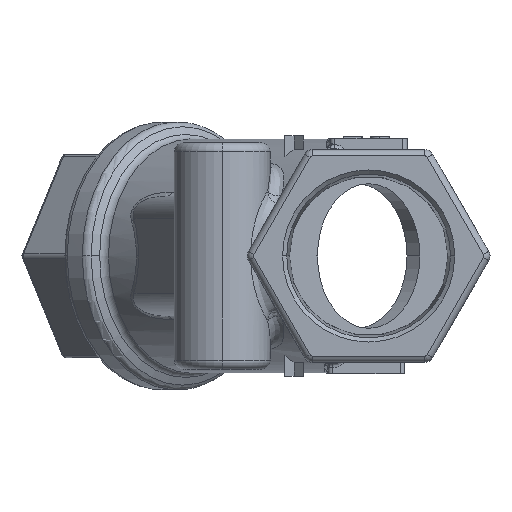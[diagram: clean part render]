
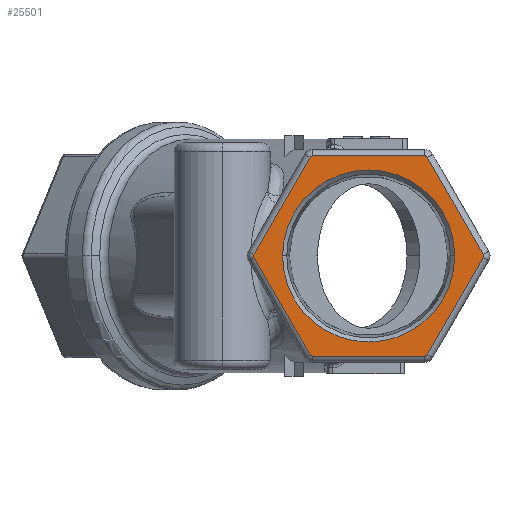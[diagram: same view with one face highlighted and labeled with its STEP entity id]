
A CAD part, left-side view. The second image highlights one B-rep face of the part: STEP entity #25501.
In plain terms, the highlighted planar face has unit normal (-1, 0, 0).
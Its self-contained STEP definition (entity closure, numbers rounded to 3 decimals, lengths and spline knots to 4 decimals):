
#1878 = CARTESIAN_POINT ( 'NONE',  ( -2.515, -0.6207, -1.1062 ) ) ;
#1887 = CARTESIAN_POINT ( 'NONE',  ( -2.515, 0.6207, -1.1062 ) ) ;
#1903 = CARTESIAN_POINT ( 'NONE',  ( -2.515, 0.6477, 1.0906 ) ) ;
#1948 = CARTESIAN_POINT ( 'NONE',  ( -2.515, -0.6477, -1.0906 ) ) ;
#2012 = CARTESIAN_POINT ( 'NONE',  ( -2.515, -0.6477, 1.0906 ) ) ;
#2087 = CARTESIAN_POINT ( 'NONE',  ( -2.515, -0.6207, 1.1062 ) ) ;
#2088 = CARTESIAN_POINT ( 'NONE',  ( -2.515, 1.2683, 0.0156 ) ) ;
#2481 = CARTESIAN_POINT ( 'NONE',  ( -2.515, -0.9511, 0. ) ) ;
#2485 = CARTESIAN_POINT ( 'NONE',  ( -2.515, 1.2683, -0.0156 ) ) ;
#2542 = CARTESIAN_POINT ( 'NONE',  ( -2.515, -1.2683, 0.0156 ) ) ;
#2549 = CARTESIAN_POINT ( 'NONE',  ( -2.515, 0.9511, 0. ) ) ;
#2559 = CARTESIAN_POINT ( 'NONE',  ( -2.515, 0.6207, 1.1062 ) ) ;
#2568 = CARTESIAN_POINT ( 'NONE',  ( -2.515, -1.2683, -0.0156 ) ) ;
#2606 = CARTESIAN_POINT ( 'NONE',  ( -2.515, 0.6477, -1.0906 ) ) ;
#5763 = CARTESIAN_POINT ( 'NONE',  ( -2.515, 0., 0. ) ) ;
#5764 = DIRECTION ( 'NONE',  ( -1., 0., 0. ) ) ;
#5765 = DIRECTION ( 'NONE',  ( 0., -1., 0. ) ) ;
#8513 = AXIS2_PLACEMENT_3D ( 'NONE', #28336, #28341, #28342 ) ;
#9471 = FACE_OUTER_BOUND ( 'NONE', #22176, .T. ) ;
#9479 = FACE_BOUND ( 'NONE', #22150, .T. ) ;
#13633 = EDGE_CURVE ( 'NONE', #17139, #17064, #43210, .T. ) ;
#13637 = EDGE_CURVE ( 'NONE', #17249, #17139, #43213, .T. ) ;
#13639 = EDGE_CURVE ( 'NONE', #17064, #17231, #43215, .T. ) ;
#13643 = EDGE_CURVE ( 'NONE', #16955, #17249, #43223, .T. ) ;
#13645 = EDGE_CURVE ( 'NONE', #17231, #17258, #43227, .T. ) ;
#13649 = EDGE_CURVE ( 'NONE', #17140, #16955, #43229, .T. ) ;
#13651 = EDGE_CURVE ( 'NONE', #17258, #17000, #43231, .T. ) ;
#13655 = EDGE_CURVE ( 'NONE', #17159, #17140, #43239, .T. ) ;
#13657 = EDGE_CURVE ( 'NONE', #17000, #16927, #43243, .T. ) ;
#13661 = EDGE_CURVE ( 'NONE', #17298, #17159, #43246, .T. ) ;
#13663 = EDGE_CURVE ( 'NONE', #16927, #16939, #43247, .T. ) ;
#13666 = EDGE_CURVE ( 'NONE', #16939, #17298, #43250, .T. ) ;
#13669 = EDGE_CURVE ( 'NONE', #17155, #17239, #43258, .T. ) ;
#16927 = VERTEX_POINT ( 'NONE', #1878 ) ;
#16939 = VERTEX_POINT ( 'NONE', #1887 ) ;
#16955 = VERTEX_POINT ( 'NONE', #1903 ) ;
#17000 = VERTEX_POINT ( 'NONE', #1948 ) ;
#17064 = VERTEX_POINT ( 'NONE', #2012 ) ;
#17139 = VERTEX_POINT ( 'NONE', #2087 ) ;
#17140 = VERTEX_POINT ( 'NONE', #2088 ) ;
#17155 = VERTEX_POINT ( 'NONE', #2481 ) ;
#17159 = VERTEX_POINT ( 'NONE', #2485 ) ;
#17231 = VERTEX_POINT ( 'NONE', #2542 ) ;
#17239 = VERTEX_POINT ( 'NONE', #2549 ) ;
#17249 = VERTEX_POINT ( 'NONE', #2559 ) ;
#17258 = VERTEX_POINT ( 'NONE', #2568 ) ;
#17298 = VERTEX_POINT ( 'NONE', #2606 ) ;
#21251 = EDGE_CURVE ( 'NONE', #17239, #17155, #46001, .T. ) ;
#22150 = EDGE_LOOP ( 'NONE', ( #41608, #41662 ) ) ;
#22176 = EDGE_LOOP ( 'NONE', ( #41567, #41509, #41556, #41593, #41557, #41568, #41641, #41645, #41629, #41490, #41582, #41590 ) ) ;
#25501 = ADVANCED_FACE ( 'NONE', ( #9471, #9479 ), #28339, .T. ) ;
#28336 = CARTESIAN_POINT ( 'NONE',  ( -2.515, 0., 0. ) ) ;
#28339 = PLANE ( 'NONE',  #8513 ) ;
#28341 = DIRECTION ( 'NONE',  ( -1., 0., 0. ) ) ;
#28342 = DIRECTION ( 'NONE',  ( 0., -1., 0. ) ) ;
#35179 = AXIS2_PLACEMENT_3D ( 'NONE', #43617, #43618, #43619 ) ;
#35185 = AXIS2_PLACEMENT_3D ( 'NONE', #43643, #43644, #43645 ) ;
#35187 = AXIS2_PLACEMENT_3D ( 'NONE', #43649, #43650, #43651 ) ;
#35193 = AXIS2_PLACEMENT_3D ( 'NONE', #43675, #43676, #43677 ) ;
#35195 = AXIS2_PLACEMENT_3D ( 'NONE', #43683, #43684, #43685 ) ;
#35200 = AXIS2_PLACEMENT_3D ( 'NONE', #43706, #43707, #43708 ) ;
#35203 = AXIS2_PLACEMENT_3D ( 'NONE', #43715, #43716, #43717 ) ;
#35452 = AXIS2_PLACEMENT_3D ( 'NONE', #5763, #5764, #5765 ) ;
#41490 = ORIENTED_EDGE ( 'NONE', *, *, #13645, .F. ) ;
#41509 = ORIENTED_EDGE ( 'NONE', *, *, #13643, .F. ) ;
#41556 = ORIENTED_EDGE ( 'NONE', *, *, #13649, .F. ) ;
#41557 = ORIENTED_EDGE ( 'NONE', *, *, #13661, .F. ) ;
#41567 = ORIENTED_EDGE ( 'NONE', *, *, #13637, .F. ) ;
#41568 = ORIENTED_EDGE ( 'NONE', *, *, #13666, .F. ) ;
#41582 = ORIENTED_EDGE ( 'NONE', *, *, #13639, .F. ) ;
#41590 = ORIENTED_EDGE ( 'NONE', *, *, #13633, .F. ) ;
#41593 = ORIENTED_EDGE ( 'NONE', *, *, #13655, .F. ) ;
#41608 = ORIENTED_EDGE ( 'NONE', *, *, #13669, .F. ) ;
#41629 = ORIENTED_EDGE ( 'NONE', *, *, #13651, .F. ) ;
#41641 = ORIENTED_EDGE ( 'NONE', *, *, #13663, .F. ) ;
#41645 = ORIENTED_EDGE ( 'NONE', *, *, #13657, .F. ) ;
#41662 = ORIENTED_EDGE ( 'NONE', *, *, #21251, .F. ) ;
#43210 = CIRCLE ( 'NONE', #35179, 0.0312 ) ;
#43213 = LINE ( 'NONE', #43628, #43217 ) ;
#43215 = LINE ( 'NONE', #43627, #43221 ) ;
#43217 = VECTOR ( 'NONE', #43623, 39.3701 ) ;
#43221 = VECTOR ( 'NONE', #43635, 39.3701 ) ;
#43223 = CIRCLE ( 'NONE', #35185, 0.0312 ) ;
#43227 = CIRCLE ( 'NONE', #35187, 0.0312 ) ;
#43229 = LINE ( 'NONE', #43660, #43233 ) ;
#43231 = LINE ( 'NONE', #43659, #43237 ) ;
#43233 = VECTOR ( 'NONE', #43655, 39.3701 ) ;
#43237 = VECTOR ( 'NONE', #43667, 39.3701 ) ;
#43239 = CIRCLE ( 'NONE', #35193, 0.0312 ) ;
#43243 = CIRCLE ( 'NONE', #35195, 0.0312 ) ;
#43246 = LINE ( 'NONE', #43693, #43249 ) ;
#43247 = LINE ( 'NONE', #43692, #43253 ) ;
#43249 = VECTOR ( 'NONE', #43682, 39.3701 ) ;
#43250 = CIRCLE ( 'NONE', #35200, 0.0312 ) ;
#43253 = VECTOR ( 'NONE', #43700, 39.3701 ) ;
#43258 = CIRCLE ( 'NONE', #35203, 0.9511 ) ;
#43617 = CARTESIAN_POINT ( 'NONE',  ( -2.515, -0.6207, 1.075 ) ) ;
#43618 = DIRECTION ( 'NONE',  ( 1., 0., 0. ) ) ;
#43619 = DIRECTION ( 'NONE',  ( 0., -1., 0. ) ) ;
#43623 = DIRECTION ( 'NONE',  ( 0., -1., 0. ) ) ;
#43627 = CARTESIAN_POINT ( 'NONE',  ( -2.515, -0.958, 0.5531 ) ) ;
#43628 = CARTESIAN_POINT ( 'NONE',  ( -2.515, 0., 1.1062 ) ) ;
#43635 = DIRECTION ( 'NONE',  ( 0., -0.5, -0.866 ) ) ;
#43643 = CARTESIAN_POINT ( 'NONE',  ( -2.515, 0.6207, 1.075 ) ) ;
#43644 = DIRECTION ( 'NONE',  ( 1., 0., 0. ) ) ;
#43645 = DIRECTION ( 'NONE',  ( 0., -1., 0. ) ) ;
#43649 = CARTESIAN_POINT ( 'NONE',  ( -2.515, -1.2413, 0. ) ) ;
#43650 = DIRECTION ( 'NONE',  ( 1., 0., 0. ) ) ;
#43651 = DIRECTION ( 'NONE',  ( 0., -1., 0. ) ) ;
#43655 = DIRECTION ( 'NONE',  ( 0., -0.5, 0.866 ) ) ;
#43659 = CARTESIAN_POINT ( 'NONE',  ( -2.515, -0.958, -0.5531 ) ) ;
#43660 = CARTESIAN_POINT ( 'NONE',  ( -2.515, 0.958, 0.5531 ) ) ;
#43667 = DIRECTION ( 'NONE',  ( 0., 0.5, -0.866 ) ) ;
#43675 = CARTESIAN_POINT ( 'NONE',  ( -2.515, 1.2413, 0. ) ) ;
#43676 = DIRECTION ( 'NONE',  ( 1., 0., 0. ) ) ;
#43677 = DIRECTION ( 'NONE',  ( 0., -1., 0. ) ) ;
#43682 = DIRECTION ( 'NONE',  ( 0., 0.5, 0.866 ) ) ;
#43683 = CARTESIAN_POINT ( 'NONE',  ( -2.515, -0.6207, -1.075 ) ) ;
#43684 = DIRECTION ( 'NONE',  ( 1., 0., 0. ) ) ;
#43685 = DIRECTION ( 'NONE',  ( 0., -1., 0. ) ) ;
#43692 = CARTESIAN_POINT ( 'NONE',  ( -2.515, 0., -1.1062 ) ) ;
#43693 = CARTESIAN_POINT ( 'NONE',  ( -2.515, 0.958, -0.5531 ) ) ;
#43700 = DIRECTION ( 'NONE',  ( 0., 1., 0. ) ) ;
#43706 = CARTESIAN_POINT ( 'NONE',  ( -2.515, 0.6207, -1.075 ) ) ;
#43707 = DIRECTION ( 'NONE',  ( 1., 0., 0. ) ) ;
#43708 = DIRECTION ( 'NONE',  ( 0., -1., 0. ) ) ;
#43715 = CARTESIAN_POINT ( 'NONE',  ( -2.515, 0., 0. ) ) ;
#43716 = DIRECTION ( 'NONE',  ( -1., 0., 0. ) ) ;
#43717 = DIRECTION ( 'NONE',  ( 0., -1., 0. ) ) ;
#46001 = CIRCLE ( 'NONE', #35452, 0.9511 ) ;
